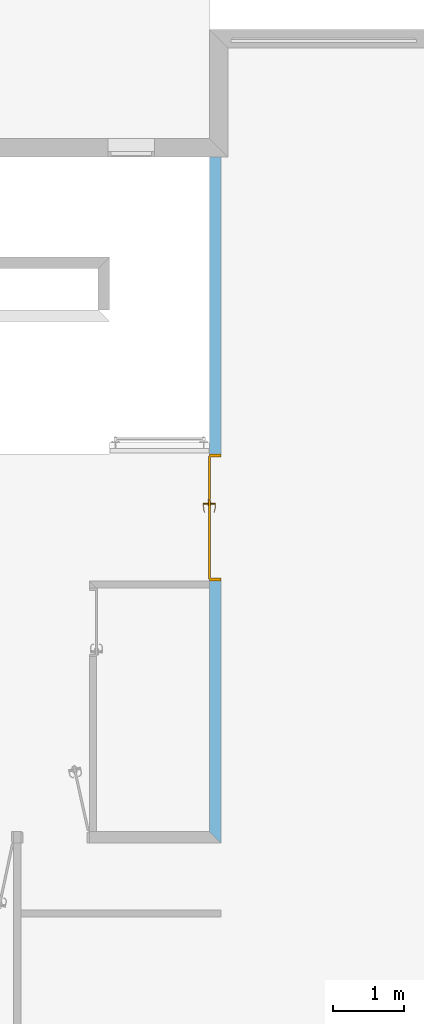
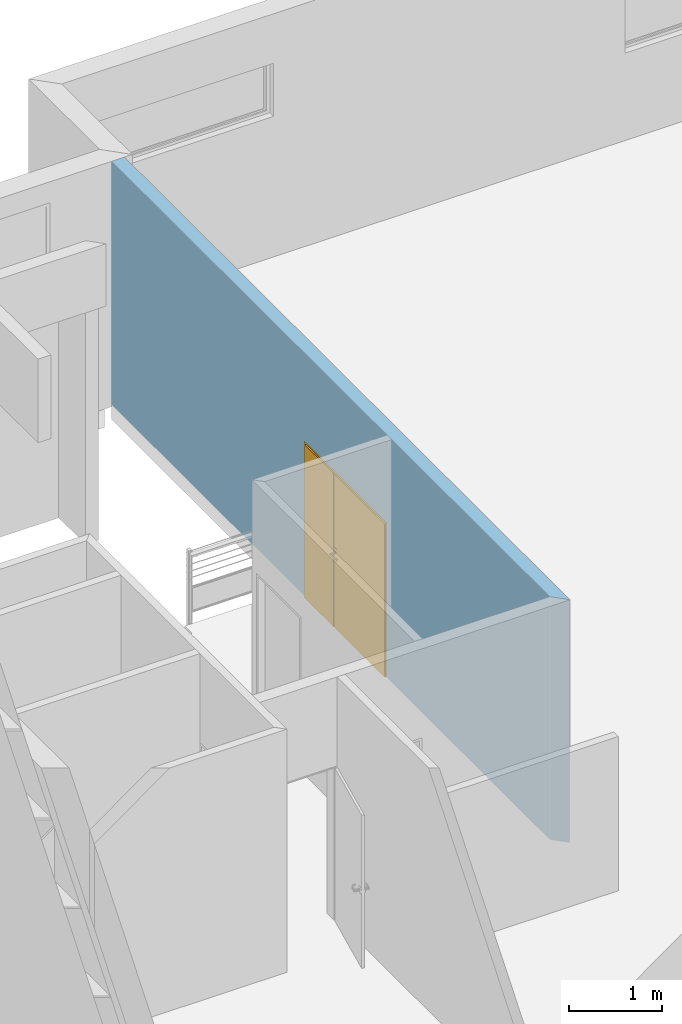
# One storey, part 9 of 14: 1 door, 1 opening, plus 1 element that does not belong to this part.
"""IFC2X3 building model written with IfcOpenShell, lengths in metres."""

from ifc_helpers import new_model, entity, si_unit, converted_unit, money_unit, direction, frame, origin_with_axes, place, context, subcontext, project, spatial, polyline, outline, extrude, open_shell, faceted_brep, surface_model, material, layer, layer_set, layer_usage, type_object, element, fill, save


model = new_model("IFC2X3")

# Units and contexts
model_context = context("Model", 3, precision=1e-05, world=origin_with_axes(), true_north=direction((0.0, 1.0)))
body_context = subcontext(model_context, "Body", "Model", "MODEL_VIEW")
ifc_project = project(units=[si_unit("LENGTHUNIT", "METRE"), si_unit("AREAUNIT", "SQUARE_METRE"), si_unit("VOLUMEUNIT", "CUBIC_METRE"), converted_unit("PLANEANGLEUNIT", "DEGREE", entity("IfcPlaneAngleMeasure", 0.0174532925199), si_unit("PLANEANGLEUNIT", "RADIAN"), dimensions=[0, 0, 0, 0, 0, 0, 0]), si_unit("SOLIDANGLEUNIT", "STERADIAN"), money_unit("EUR"), converted_unit("TIMEUNIT", "Year", entity("IfcTimeMeasure", 31556926.0), si_unit("TIMEUNIT", "SECOND"), dimensions=[0, 0, 0, 0, 0, 0, 0]), si_unit("MASSUNIT", "GRAM"), si_unit("THERMODYNAMICTEMPERATUREUNIT", "DEGREE_CELSIUS"), si_unit("LUMINOUSINTENSITYUNIT", "LUMEN")], contexts=[model_context])

# Site, building, storey
site_placement = place(None, origin_with_axes())
site = spatial("IfcSite", under=ifc_project, at=site_placement, Name="Site", CompositionType="ELEMENT")
building_placement = place(site_placement, origin_with_axes())
building = spatial("IfcBuilding", under=site, at=building_placement, Name="Bâtiment", CompositionType="ELEMENT")
storey_placement = place(building_placement, frame((0.0, 0.0, 3.0), z_axis=(0.0, 0.0, 1.0), x_axis=(1.0, 0.0, 0.0)))
storey = spatial("IfcBuildingStorey", under=building, at=storey_placement, Name="NIVEAU HAUT ENTRÉE", CompositionType="ELEMENT", Elevation=3.0)

# Wall, opening, door
ifc_material_1 = material(Name="Hachure solide* 3962059836")
ifc_layer = layer(ifc_material_1, 0.16, ventilated="UNKNOWN")
ifc_layer_set = layer_set([ifc_layer], Name="Hachure solide* 3962059836 0.16")
ifc_layer_usage = layer_usage(ifc_layer_set, "AXIS2", "POSITIVE", 0.0)
wall_type = type_object("IfcWallType", Name="Hachure solide* 3962059836 160", PredefinedType="NOTDEFINED")
wall_placement = place(storey_placement, frame((51.838457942, 20.228815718, 0.0), z_axis=(0.0, 0.0, 1.0), x_axis=(0.0, -1.0, 0.0)))
wall = element("IfcWallStandardCase", 1, at=wall_placement, inside=storey, type_object=wall_type, material=ifc_layer_usage, Name="Mur-004", context=body_context, shape_type="SweptSolid", body=[
    extrude(outline(polyline([(0.26, 0.0), (9.71, 0.0), (9.87, 0.16), (0.26, 0.16), (0.26, 0.0)])), origin_with_axes(), (0.0, 0.0, 1.0), 3.2),
])
opening_placement = place(wall_placement, frame((5.31000000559, 0.0, 0.0), z_axis=(0.0, 0.0, 1.0), x_axis=(1.0, 0.0, 0.0)))
opening = element("IfcOpeningElement", 2, at=opening_placement, cuts=wall, Name="Por-017", context=body_context, shape_type="SweptSolid", body=[
    extrude(outline(polyline([(0.89, 0.0), (-0.89, 0.0), (-0.89, -2.045), (0.89, -2.045), (0.89, 0.0)])), frame((0.0, 0.16, 0.0), z_axis=(0.0, -1.0, 0.0), x_axis=(-1.0, 0.0, 0.0)), (0.0, 0.0, 1.0), 0.32),
])
ifc_material_2 = material(Name="Sans Trame")
door_style = type_object("IfcDoorStyle", Name="Porte int 2v inégaux", ConstructionType="NOTDEFINED", OperationType="NOTDEFINED", ParameterTakesPrecedence=False, Sizeable=False)
door_placement = place(opening_placement, frame((0.890000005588, 0.0, 0.0), z_axis=(0.0, 0.0, 1.0), x_axis=(-1.0, 0.0, 0.0)))
door = element("IfcDoor", 3, at=door_placement, inside=storey, type_object=door_style, material=ifc_material_2, Name="Por-017", OverallHeight=2.045, OverallWidth=1.78, context=body_context, shape_type="SurfaceModel", body=[
    faceted_brep([(1.11758833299e-08, 0.0, 0.0), (1.11758833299e-08, 0.0, 2.045), (1.78000001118, 0.0, 2.045), (1.78000001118, 0.0, 0.0), (1.75000001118, 0.0, 0.0), (1.75000001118, 0.0, 2.015), (0.0300000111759, 0.0, 2.015), (0.0300000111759, 0.0, 0.0), (1.11758833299e-08, -0.16, 0.0), (1.11758833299e-08, -0.16, 2.045), (1.78000001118, -0.16, 2.045), (1.78000001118, -0.16, 0.0), (1.73500001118, -0.16, 0.0), (1.73500001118, -0.015, 0.0), (1.75000001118, -0.015, 0.0), (1.75000001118, -0.015, 2.015), (0.0300000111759, -0.015, 2.015), (0.0300000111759, -0.015, 0.0), (0.0450000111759, -0.015, 0.0), (0.0450000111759, -0.16, 0.0), (0.0450000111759, -0.16, 2.0), (1.73500001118, -0.16, 2.0), (1.73500001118, -0.015, 2.0), (0.0450000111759, -0.015, 2.0)], [[[0, 1, 2, 3, 4, 5, 6, 7]], [[8, 9, 1, 0]], [[9, 10, 2, 1]], [[10, 11, 3, 2]], [[3, 11, 12, 13, 14, 4]], [[5, 4, 14, 15]], [[6, 5, 15, 16]], [[7, 6, 16, 17]], [[0, 7, 17, 18, 19, 8]], [[19, 20, 21, 12, 11, 10, 9, 8]], [[22, 13, 12, 21]], [[17, 16, 15, 14, 13, 22, 23, 18]], [[18, 23, 20, 19]], [[23, 22, 21, 20]]]),
    faceted_brep([(1.75000001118, 0.015, 0.0), (1.75000001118, -0.015, 0.0), (1.14000001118, -0.015, 0.0), (1.14000001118, 0.015, 0.0), (1.75000001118, 0.015, 2.015), (1.75000001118, -0.015, 2.015), (1.14000001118, -0.015, 2.015), (1.14000001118, 0.015, 2.015)], [[[0, 1, 2, 3]], [[4, 5, 1, 0]], [[1, 5, 6, 2]], [[3, 2, 6, 7]], [[0, 3, 7, 4]], [[7, 6, 5, 4]]]),
    faceted_brep([(0.0300000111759, 0.015, 0.0), (1.13500001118, 0.015, 0.0), (1.13500001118, -0.015, 0.0), (0.0300000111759, -0.015, 0.0), (0.0300000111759, 0.015, 2.015), (1.13500001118, 0.015, 2.015), (1.13500001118, -0.015, 2.015), (0.0300000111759, -0.015, 2.015)], [[[0, 1, 2, 3]], [[0, 4, 5, 1]], [[1, 5, 6, 2]], [[3, 2, 6, 7]], [[4, 0, 3, 7]], [[5, 4, 7, 6]]]),
    faceted_brep([(1.11100001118, -0.015, 1.06), (1.05400001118, -0.015, 1.06), (1.05400001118, -0.018, 1.06), (1.11100001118, -0.018, 1.06), (1.11100001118, -0.015, 0.87), (1.05400001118, -0.015, 0.87), (1.05400001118, -0.018, 0.87), (1.11100001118, -0.018, 0.87)], [[[0, 1, 2, 3]], [[0, 4, 5, 1]], [[1, 5, 6, 2]], [[3, 2, 6, 7]], [[4, 0, 3, 7]], [[5, 4, 7, 6]]]),
    surface_model("IfcShellBasedSurfaceModel", [(1.08250001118, -0.079, 0.99), (1.08632701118, -0.079, 0.990761), (1.08632701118, -0.086, 0.990761), (1.08250001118, -0.086, 0.99), (1.05750001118, -0.079, 0.99), (1.05750001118, -0.079, 1.01), (1.08250001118, -0.079, 1.01), (1.08632701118, -0.079, 1.009239), (1.08957101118, -0.079, 1.007071), (1.09173901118, -0.079, 1.003827), (1.09250001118, -0.079, 1.0), (1.09173901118, -0.079, 0.996173), (1.08957101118, -0.079, 0.992929), (1.08957101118, -0.086, 0.992929), (1.09173901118, -0.086, 0.996173), (1.09250001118, -0.086, 1.0), (1.09173901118, -0.086, 1.003827), (1.08957101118, -0.086, 1.007071), (1.08632701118, -0.086, 1.009239), (1.08250001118, -0.086, 1.01), (1.05750001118, -0.086, 1.01), (1.05750001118, -0.086, 0.99)], [open_shell([[[0, 1, 2, 3]], [[0, 4, 5, 6, 7, 8, 9, 10, 11, 12, 1]], [[1, 12, 13, 2]], [[3, 2, 13, 14, 15, 16, 17, 18, 19, 20, 21]], [[4, 0, 3, 21]], [[6, 5, 20, 19]], [[7, 6, 19, 18]], [[8, 7, 18, 17]], [[9, 8, 17, 16]], [[10, 9, 16, 15]], [[11, 10, 15, 14]], [[12, 11, 14, 13]]])]),
    surface_model("IfcShellBasedSurfaceModel", [(1.05750001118, -0.079, 1.01), (1.04440201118, -0.079, 1.009607), (1.04409601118, -0.086, 1.009607), (1.05750001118, -0.079, 0.99), (1.04440201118, -0.079, 0.990393), (1.01739001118, -0.083664, 1.008822), (1.05750001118, -0.086, 1.01), (1.05750001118, -0.086, 0.99), (1.01830501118, -0.076717, 0.991178), (1.01830501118, -0.076717, 1.008822), (1.01739001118, -0.083664, 0.991178), (1.04409601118, -0.086, 0.990393), (0.992506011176, -0.072168, 0.991963), (0.992506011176, -0.072168, 1.008037), (0.990990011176, -0.079008, 1.008037), (0.990990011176, -0.079008, 0.991963), (0.967202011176, -0.065388, 0.992749), (0.967202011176, -0.065388, 1.007251), (0.965095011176, -0.07207, 1.007251), (0.965095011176, -0.07207, 0.992749), (0.959329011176, -0.062522, 0.993), (0.959329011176, -0.062522, 1.007), (0.957039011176, -0.069138, 1.007), (0.957039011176, -0.069138, 0.993)], [open_shell([[[0, 1, 2]], [[0, 3, 4, 1]], [[1, 5, 2]], [[0, 2, 6]], [[4, 3, 7]], [[1, 4, 8, 9]], [[1, 9, 5]], [[2, 5, 10, 11]], [[6, 2, 11, 7]], [[4, 7, 11]], [[8, 4, 11]], [[9, 8, 12, 13]], [[9, 14, 5]], [[5, 14, 15, 10]], [[8, 11, 10]], [[12, 8, 10]], [[13, 12, 16, 17]], [[9, 13, 14]], [[14, 18, 19, 15]], [[12, 10, 15]], [[16, 12, 15]], [[17, 16, 20, 21]], [[13, 17, 18]], [[13, 18, 14]], [[18, 22, 23, 19]], [[16, 15, 19]], [[20, 16, 19]], [[21, 20, 23, 22]], [[17, 21, 22]], [[17, 22, 18]], [[20, 19, 23]]])]),
    faceted_brep([(1.07141301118, -0.028, 0.995408), (1.07050001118, -0.028, 1.0), (1.06950001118, -0.018, 1.0), (1.07049001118, -0.018, 0.995025), (1.07401501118, -0.028, 0.991515), (1.07790801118, -0.028, 0.988913), (1.08250001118, -0.028, 0.988), (1.08709201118, -0.028, 0.988913), (1.09098501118, -0.028, 0.991515), (1.09358701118, -0.028, 0.995408), (1.09450001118, -0.028, 1.0), (1.09358701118, -0.028, 1.004592), (1.09098501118, -0.028, 1.008485), (1.08709201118, -0.028, 1.011087), (1.08250001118, -0.028, 1.012), (1.07790801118, -0.028, 1.011087), (1.07401501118, -0.028, 1.008485), (1.07141301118, -0.028, 1.004592), (1.07049001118, -0.018, 1.004975), (1.07330801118, -0.018, 1.009192), (1.07752501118, -0.018, 1.01201), (1.08250001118, -0.018, 1.013), (1.08747501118, -0.018, 1.01201), (1.09169201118, -0.018, 1.009192), (1.09451001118, -0.018, 1.004975), (1.09550001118, -0.018, 1.0), (1.09451001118, -0.018, 0.995025), (1.09169201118, -0.018, 0.990808), (1.08747501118, -0.018, 0.98799), (1.08250001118, -0.018, 0.987), (1.07752501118, -0.018, 0.98799), (1.07330801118, -0.018, 0.990808)], [[[0, 1, 2, 3]], [[1, 0, 4, 5, 6, 7, 8, 9, 10, 11, 12, 13, 14, 15, 16, 17]], [[1, 17, 18, 2]], [[2, 18, 19, 20, 21, 22, 23, 24, 25, 26, 27, 28, 29, 30, 31, 3]], [[4, 0, 3, 31]], [[5, 4, 31, 30]], [[6, 5, 30, 29]], [[7, 6, 29, 28]], [[8, 7, 28, 27]], [[9, 8, 27, 26]], [[10, 9, 26, 25]], [[11, 10, 25, 24]], [[12, 11, 24, 23]], [[13, 12, 23, 22]], [[14, 13, 22, 21]], [[15, 14, 21, 20]], [[16, 15, 20, 19]], [[17, 16, 19, 18]]]),
    faceted_brep([(1.06402201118, -0.022, 0.897346), (1.06250001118, -0.022, 0.905), (1.06050001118, -0.018, 0.905), (1.06217501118, -0.018, 0.896581), (1.06835801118, -0.022, 0.890858), (1.07484601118, -0.022, 0.886522), (1.08250001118, -0.022, 0.885), (1.09015401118, -0.022, 0.886522), (1.09664201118, -0.022, 0.890858), (1.10097801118, -0.022, 0.897346), (1.10250001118, -0.022, 0.905), (1.10097801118, -0.022, 0.912654), (1.09664201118, -0.022, 0.919142), (1.09015401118, -0.022, 0.923478), (1.08250001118, -0.022, 0.925), (1.07484601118, -0.022, 0.923478), (1.06835801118, -0.022, 0.919142), (1.06402201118, -0.022, 0.912654), (1.06217501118, -0.018, 0.913419), (1.06694401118, -0.018, 0.920556), (1.07408101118, -0.018, 0.925325), (1.08250001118, -0.018, 0.927), (1.09091901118, -0.018, 0.925325), (1.09805601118, -0.018, 0.920556), (1.10282501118, -0.018, 0.913419), (1.10450001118, -0.018, 0.905), (1.10282501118, -0.018, 0.896581), (1.09805601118, -0.018, 0.889444), (1.09091901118, -0.018, 0.884675), (1.08250001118, -0.018, 0.883), (1.07408101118, -0.018, 0.884675), (1.06694401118, -0.018, 0.889444)], [[[0, 1, 2, 3]], [[1, 0, 4, 5, 6, 7, 8, 9, 10, 11, 12, 13, 14, 15, 16, 17]], [[1, 17, 18, 2]], [[2, 18, 19, 20, 21, 22, 23, 24, 25, 26, 27, 28, 29, 30, 31, 3]], [[4, 0, 3, 31]], [[5, 4, 31, 30]], [[6, 5, 30, 29]], [[7, 6, 29, 28]], [[8, 7, 28, 27]], [[9, 8, 27, 26]], [[10, 9, 26, 25]], [[11, 10, 25, 24]], [[12, 11, 24, 23]], [[13, 12, 23, 22]], [[14, 13, 22, 21]], [[15, 14, 21, 20]], [[16, 15, 20, 19]], [[17, 16, 19, 18]]]),
    faceted_brep([(1.07603301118, -0.024, 0.911321), (1.07550001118, -0.024, 0.914), (1.07450001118, -0.022, 0.914), (1.07510901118, -0.022, 0.910939), (1.07755001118, -0.024, 0.90905), (1.07982101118, -0.024, 0.907533), (1.08250001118, -0.024, 0.907), (1.08517901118, -0.024, 0.907533), (1.08745001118, -0.024, 0.90905), (1.08896701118, -0.024, 0.911321), (1.08950001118, -0.024, 0.914), (1.08896701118, -0.024, 0.916679), (1.08745001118, -0.024, 0.91895), (1.08517901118, -0.024, 0.920467), (1.08250001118, -0.024, 0.921), (1.07982101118, -0.024, 0.920467), (1.07755001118, -0.024, 0.91895), (1.07603301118, -0.024, 0.916679), (1.07510901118, -0.022, 0.917061), (1.07684301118, -0.022, 0.919657), (1.07943901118, -0.022, 0.921391), (1.08250001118, -0.022, 0.922), (1.08556101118, -0.022, 0.921391), (1.08815701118, -0.022, 0.919657), (1.08989101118, -0.022, 0.917061), (1.09050001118, -0.022, 0.914), (1.08989101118, -0.022, 0.910939), (1.08815701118, -0.022, 0.908343), (1.08556101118, -0.022, 0.906609), (1.08250001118, -0.022, 0.906), (1.07943901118, -0.022, 0.906609), (1.07684301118, -0.022, 0.908343)], [[[0, 1, 2, 3]], [[1, 0, 4, 5, 6, 7, 8, 9, 10, 11, 12, 13, 14, 15, 16, 17]], [[1, 17, 18, 2]], [[2, 18, 19, 20, 21, 22, 23, 24, 25, 26, 27, 28, 29, 30, 31, 3]], [[4, 0, 3, 31]], [[5, 4, 31, 30]], [[6, 5, 30, 29]], [[7, 6, 29, 28]], [[8, 7, 28, 27]], [[9, 8, 27, 26]], [[10, 9, 26, 25]], [[11, 10, 25, 24]], [[12, 11, 24, 23]], [[13, 12, 23, 22]], [[14, 13, 22, 21]], [[15, 14, 21, 20]], [[16, 15, 20, 19]], [[17, 16, 19, 18]]]),
    faceted_brep([(1.08250001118, -0.028, 1.01), (1.07867301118, -0.028, 1.009239), (1.07867301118, -0.079, 1.009239), (1.08250001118, -0.079, 1.01), (1.08632701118, -0.028, 1.009239), (1.08957101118, -0.028, 1.007071), (1.09173901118, -0.028, 1.003827), (1.09250001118, -0.028, 1.0), (1.09173901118, -0.028, 0.996173), (1.08957101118, -0.028, 0.992929), (1.08632701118, -0.028, 0.990761), (1.08250001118, -0.028, 0.99), (1.07867301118, -0.028, 0.990761), (1.07542901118, -0.028, 0.992929), (1.07326101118, -0.028, 0.996173), (1.07250001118, -0.028, 1.0), (1.07326101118, -0.028, 1.003827), (1.07542901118, -0.028, 1.007071), (1.07542901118, -0.079, 1.007071), (1.07326101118, -0.079, 1.003827), (1.07250001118, -0.079, 1.0), (1.07326101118, -0.079, 0.996173), (1.07542901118, -0.079, 0.992929), (1.07867301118, -0.079, 0.990761), (1.08250001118, -0.079, 0.99), (1.08632701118, -0.079, 0.990761), (1.08957101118, -0.079, 0.992929), (1.09173901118, -0.079, 0.996173), (1.09250001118, -0.079, 1.0), (1.09173901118, -0.079, 1.003827), (1.08957101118, -0.079, 1.007071), (1.08632701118, -0.079, 1.009239)], [[[0, 1, 2, 3]], [[0, 4, 5, 6, 7, 8, 9, 10, 11, 12, 13, 14, 15, 16, 17, 1]], [[1, 17, 18, 2]], [[3, 2, 18, 19, 20, 21, 22, 23, 24, 25, 26, 27, 28, 29, 30, 31]], [[4, 0, 3, 31]], [[5, 4, 31, 30]], [[6, 5, 30, 29]], [[7, 6, 29, 28]], [[8, 7, 28, 27]], [[9, 8, 27, 26]], [[10, 9, 26, 25]], [[11, 10, 25, 24]], [[12, 11, 24, 23]], [[13, 12, 23, 22]], [[14, 13, 22, 21]], [[15, 14, 21, 20]], [[16, 15, 20, 19]], [[17, 16, 19, 18]]]),
    faceted_brep([(1.11100001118, 0.015, 1.06), (1.11100001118, 0.018, 1.06), (1.05400001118, 0.018, 1.06), (1.05400001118, 0.015, 1.06), (1.11100001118, 0.015, 0.87), (1.11100001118, 0.018, 0.87), (1.05400001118, 0.018, 0.87), (1.05400001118, 0.015, 0.87)], [[[0, 1, 2, 3]], [[4, 5, 1, 0]], [[1, 5, 6, 2]], [[3, 2, 6, 7]], [[0, 3, 7, 4]], [[7, 6, 5, 4]]]),
    surface_model("IfcShellBasedSurfaceModel", [(1.08250001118, 0.079, 0.99), (1.08250001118, 0.086, 0.99), (1.08632701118, 0.086, 0.990761), (1.08632701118, 0.079, 0.990761), (1.05750001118, 0.079, 0.99), (1.05750001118, 0.086, 0.99), (1.05750001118, 0.086, 1.01), (1.08250001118, 0.086, 1.01), (1.08632701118, 0.086, 1.009239), (1.08957101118, 0.086, 1.007071), (1.09173901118, 0.086, 1.003827), (1.09250001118, 0.086, 1.0), (1.09173901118, 0.086, 0.996173), (1.08957101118, 0.086, 0.992929), (1.08957101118, 0.079, 0.992929), (1.09173901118, 0.079, 0.996173), (1.09250001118, 0.079, 1.0), (1.09173901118, 0.079, 1.003827), (1.08957101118, 0.079, 1.007071), (1.08632701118, 0.079, 1.009239), (1.08250001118, 0.079, 1.01), (1.05750001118, 0.079, 1.01)], [open_shell([[[0, 1, 2, 3]], [[4, 5, 1, 0]], [[1, 5, 6, 7, 8, 9, 10, 11, 12, 13, 2]], [[3, 2, 13, 14]], [[0, 3, 14, 15, 16, 17, 18, 19, 20, 21, 4]], [[20, 7, 6, 21]], [[19, 8, 7, 20]], [[18, 9, 8, 19]], [[17, 10, 9, 18]], [[16, 11, 10, 17]], [[15, 12, 11, 16]], [[14, 13, 12, 15]]])]),
    surface_model("IfcShellBasedSurfaceModel", [(1.05750001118, 0.079, 1.01), (1.04409601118, 0.086, 1.009607), (1.04440201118, 0.079, 1.009607), (1.05750001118, 0.086, 1.01), (1.01739001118, 0.083664, 1.008822), (1.04440201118, 0.079, 0.990393), (1.05750001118, 0.079, 0.99), (1.05750001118, 0.086, 0.99), (1.04409601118, 0.086, 0.990393), (1.01739001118, 0.083664, 0.991178), (1.01830501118, 0.076717, 1.008822), (1.01830501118, 0.076717, 0.991178), (0.990990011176, 0.079008, 0.991963), (0.990990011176, 0.079008, 1.008037), (0.992506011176, 0.072168, 1.008037), (0.992506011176, 0.072168, 0.991963), (0.965095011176, 0.07207, 0.992749), (0.965095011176, 0.07207, 1.007251), (0.967202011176, 0.065388, 1.007251), (0.967202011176, 0.065388, 0.992749), (0.957039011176, 0.069138, 0.993), (0.957039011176, 0.069138, 1.007), (0.959329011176, 0.062522, 1.007), (0.959329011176, 0.062522, 0.993)], [open_shell([[[0, 1, 2]], [[0, 3, 1]], [[2, 1, 4]], [[0, 2, 5, 6]], [[3, 7, 8, 1]], [[1, 8, 9, 4]], [[2, 4, 10]], [[2, 10, 11, 5]], [[5, 7, 6]], [[5, 8, 7]], [[11, 9, 8]], [[4, 9, 12, 13]], [[10, 4, 13]], [[10, 14, 15, 11]], [[11, 8, 5]], [[15, 9, 11]], [[15, 12, 9]], [[13, 12, 16, 17]], [[10, 13, 14]], [[14, 18, 19, 15]], [[19, 12, 15]], [[19, 16, 12]], [[17, 16, 20, 21]], [[14, 13, 17]], [[14, 17, 18]], [[18, 22, 23, 19]], [[23, 16, 19]], [[23, 20, 16]], [[22, 21, 20, 23]], [[18, 17, 21]], [[18, 21, 22]]])]),
    faceted_brep([(1.07141301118, 0.028, 0.995408), (1.07049001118, 0.018, 0.995025), (1.06950001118, 0.018, 1.0), (1.07050001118, 0.028, 1.0), (1.07401501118, 0.028, 0.991515), (1.07330801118, 0.018, 0.990808), (1.07752501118, 0.018, 0.98799), (1.08250001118, 0.018, 0.987), (1.08747501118, 0.018, 0.98799), (1.09169201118, 0.018, 0.990808), (1.09451001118, 0.018, 0.995025), (1.09550001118, 0.018, 1.0), (1.09451001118, 0.018, 1.004975), (1.09169201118, 0.018, 1.009192), (1.08747501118, 0.018, 1.01201), (1.08250001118, 0.018, 1.013), (1.07752501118, 0.018, 1.01201), (1.07330801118, 0.018, 1.009192), (1.07049001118, 0.018, 1.004975), (1.07141301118, 0.028, 1.004592), (1.07401501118, 0.028, 1.008485), (1.07790801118, 0.028, 1.011087), (1.08250001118, 0.028, 1.012), (1.08709201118, 0.028, 1.011087), (1.09098501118, 0.028, 1.008485), (1.09358701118, 0.028, 1.004592), (1.09450001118, 0.028, 1.0), (1.09358701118, 0.028, 0.995408), (1.09098501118, 0.028, 0.991515), (1.08709201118, 0.028, 0.988913), (1.08250001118, 0.028, 0.988), (1.07790801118, 0.028, 0.988913)], [[[0, 1, 2, 3]], [[4, 5, 1, 0]], [[2, 1, 5, 6, 7, 8, 9, 10, 11, 12, 13, 14, 15, 16, 17, 18]], [[3, 2, 18, 19]], [[3, 19, 20, 21, 22, 23, 24, 25, 26, 27, 28, 29, 30, 31, 4, 0]], [[31, 6, 5, 4]], [[30, 7, 6, 31]], [[29, 8, 7, 30]], [[28, 9, 8, 29]], [[27, 10, 9, 28]], [[26, 11, 10, 27]], [[25, 12, 11, 26]], [[24, 13, 12, 25]], [[23, 14, 13, 24]], [[22, 15, 14, 23]], [[21, 16, 15, 22]], [[20, 17, 16, 21]], [[19, 18, 17, 20]]]),
    faceted_brep([(1.06402201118, 0.022, 0.897346), (1.06217501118, 0.018, 0.896581), (1.06050001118, 0.018, 0.905), (1.06250001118, 0.022, 0.905), (1.06835801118, 0.022, 0.890858), (1.06694401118, 0.018, 0.889444), (1.07408101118, 0.018, 0.884675), (1.08250001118, 0.018, 0.883), (1.09091901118, 0.018, 0.884675), (1.09805601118, 0.018, 0.889444), (1.10282501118, 0.018, 0.896581), (1.10450001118, 0.018, 0.905), (1.10282501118, 0.018, 0.913419), (1.09805601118, 0.018, 0.920556), (1.09091901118, 0.018, 0.925325), (1.08250001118, 0.018, 0.927), (1.07408101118, 0.018, 0.925325), (1.06694401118, 0.018, 0.920556), (1.06217501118, 0.018, 0.913419), (1.06402201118, 0.022, 0.912654), (1.06835801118, 0.022, 0.919142), (1.07484601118, 0.022, 0.923478), (1.08250001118, 0.022, 0.925), (1.09015401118, 0.022, 0.923478), (1.09664201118, 0.022, 0.919142), (1.10097801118, 0.022, 0.912654), (1.10250001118, 0.022, 0.905), (1.10097801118, 0.022, 0.897346), (1.09664201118, 0.022, 0.890858), (1.09015401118, 0.022, 0.886522), (1.08250001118, 0.022, 0.885), (1.07484601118, 0.022, 0.886522)], [[[0, 1, 2, 3]], [[4, 5, 1, 0]], [[2, 1, 5, 6, 7, 8, 9, 10, 11, 12, 13, 14, 15, 16, 17, 18]], [[3, 2, 18, 19]], [[3, 19, 20, 21, 22, 23, 24, 25, 26, 27, 28, 29, 30, 31, 4, 0]], [[31, 6, 5, 4]], [[30, 7, 6, 31]], [[29, 8, 7, 30]], [[28, 9, 8, 29]], [[27, 10, 9, 28]], [[26, 11, 10, 27]], [[25, 12, 11, 26]], [[24, 13, 12, 25]], [[23, 14, 13, 24]], [[22, 15, 14, 23]], [[21, 16, 15, 22]], [[20, 17, 16, 21]], [[19, 18, 17, 20]]]),
    faceted_brep([(1.07603301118, 0.024, 0.911321), (1.07510901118, 0.022, 0.910939), (1.07450001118, 0.022, 0.914), (1.07550001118, 0.024, 0.914), (1.07755001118, 0.024, 0.90905), (1.07684301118, 0.022, 0.908343), (1.07943901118, 0.022, 0.906609), (1.08250001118, 0.022, 0.906), (1.08556101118, 0.022, 0.906609), (1.08815701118, 0.022, 0.908343), (1.08989101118, 0.022, 0.910939), (1.09050001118, 0.022, 0.914), (1.08989101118, 0.022, 0.917061), (1.08815701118, 0.022, 0.919657), (1.08556101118, 0.022, 0.921391), (1.08250001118, 0.022, 0.922), (1.07943901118, 0.022, 0.921391), (1.07684301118, 0.022, 0.919657), (1.07510901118, 0.022, 0.917061), (1.07603301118, 0.024, 0.916679), (1.07755001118, 0.024, 0.91895), (1.07982101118, 0.024, 0.920467), (1.08250001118, 0.024, 0.921), (1.08517901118, 0.024, 0.920467), (1.08745001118, 0.024, 0.91895), (1.08896701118, 0.024, 0.916679), (1.08950001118, 0.024, 0.914), (1.08896701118, 0.024, 0.911321), (1.08745001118, 0.024, 0.90905), (1.08517901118, 0.024, 0.907533), (1.08250001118, 0.024, 0.907), (1.07982101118, 0.024, 0.907533)], [[[0, 1, 2, 3]], [[4, 5, 1, 0]], [[2, 1, 5, 6, 7, 8, 9, 10, 11, 12, 13, 14, 15, 16, 17, 18]], [[3, 2, 18, 19]], [[3, 19, 20, 21, 22, 23, 24, 25, 26, 27, 28, 29, 30, 31, 4, 0]], [[31, 6, 5, 4]], [[30, 7, 6, 31]], [[29, 8, 7, 30]], [[28, 9, 8, 29]], [[27, 10, 9, 28]], [[26, 11, 10, 27]], [[25, 12, 11, 26]], [[24, 13, 12, 25]], [[23, 14, 13, 24]], [[22, 15, 14, 23]], [[21, 16, 15, 22]], [[20, 17, 16, 21]], [[19, 18, 17, 20]]]),
    faceted_brep([(1.08250001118, 0.028, 1.01), (1.08250001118, 0.079, 1.01), (1.07867301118, 0.079, 1.009239), (1.07867301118, 0.028, 1.009239), (1.08632701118, 0.028, 1.009239), (1.08632701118, 0.079, 1.009239), (1.08957101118, 0.079, 1.007071), (1.09173901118, 0.079, 1.003827), (1.09250001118, 0.079, 1.0), (1.09173901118, 0.079, 0.996173), (1.08957101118, 0.079, 0.992929), (1.08632701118, 0.079, 0.990761), (1.08250001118, 0.079, 0.99), (1.07867301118, 0.079, 0.990761), (1.07542901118, 0.079, 0.992929), (1.07326101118, 0.079, 0.996173), (1.07250001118, 0.079, 1.0), (1.07326101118, 0.079, 1.003827), (1.07542901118, 0.079, 1.007071), (1.07542901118, 0.028, 1.007071), (1.07326101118, 0.028, 1.003827), (1.07250001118, 0.028, 1.0), (1.07326101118, 0.028, 0.996173), (1.07542901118, 0.028, 0.992929), (1.07867301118, 0.028, 0.990761), (1.08250001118, 0.028, 0.99), (1.08632701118, 0.028, 0.990761), (1.08957101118, 0.028, 0.992929), (1.09173901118, 0.028, 0.996173), (1.09250001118, 0.028, 1.0), (1.09173901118, 0.028, 1.003827), (1.08957101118, 0.028, 1.007071)], [[[0, 1, 2, 3]], [[4, 5, 1, 0]], [[1, 5, 6, 7, 8, 9, 10, 11, 12, 13, 14, 15, 16, 17, 18, 2]], [[3, 2, 18, 19]], [[0, 3, 19, 20, 21, 22, 23, 24, 25, 26, 27, 28, 29, 30, 31, 4]], [[31, 6, 5, 4]], [[30, 7, 6, 31]], [[29, 8, 7, 30]], [[28, 9, 8, 29]], [[27, 10, 9, 28]], [[26, 11, 10, 27]], [[25, 12, 11, 26]], [[24, 13, 12, 25]], [[23, 14, 13, 24]], [[22, 15, 14, 23]], [[21, 16, 15, 22]], [[20, 17, 16, 21]], [[19, 18, 17, 20]]]),
    faceted_brep([(1.12000001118, 0.02, 0.0), (1.12000001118, 0.02, 2.015), (1.15000001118, 0.02, 2.015), (1.15000001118, 0.02, 0.0), (1.12000001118, 0.015, 0.0), (1.12000001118, 0.015, 2.015), (1.15000001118, 0.015, 2.015), (1.15000001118, 0.015, 0.0)], [[[0, 1, 2, 3]], [[0, 4, 5, 1]], [[1, 5, 6, 2]], [[2, 6, 7, 3]], [[3, 7, 4, 0]], [[7, 6, 5, 4]]]),
])
fill(opening, door)

save(model, "model.ifc")
